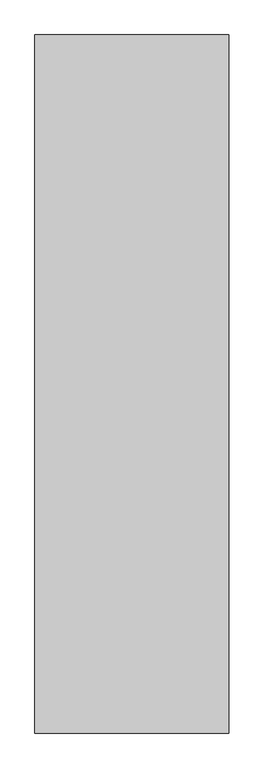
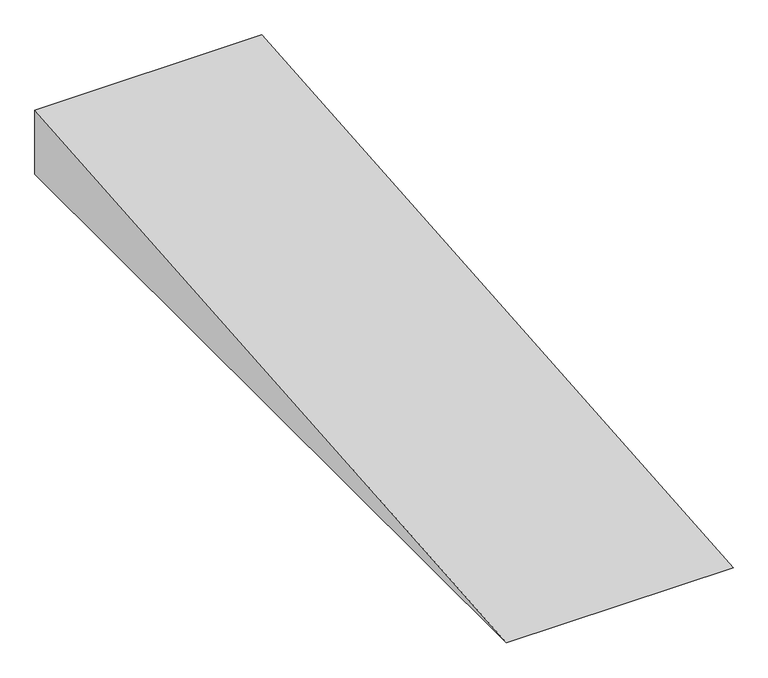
"""IFC4 building model written with IfcOpenShell, lengths in millimetres: ramp geometry, 教学楼坡道 – 1/12."""

from ifc_helpers import new_model, si_unit, frame, origin, place, context, project, spatial, polyline, outline, extrude, source, transform, mapped, element, save


def ramp_28147cfc(model_context):
    return source(origin(), model_context, "Body", "SweptSolid", [
        extrude(outline(polyline([(6600.0, -450.0), (12000.0, 0.0), (12000.0, -450.0), (6600.0, -450.0)])), frame((83750.0, 0.0, 0.0), z_axis=(1.0, 0.0, 0.0), x_axis=(0.0, 1.0, 0.0)), (0.0, 0.0, 1.0), 1500.0),
    ])


if __name__ == "__main__":
    model = new_model("IFC4")
    model_context = context("Model", 3, world=origin())
    ifc_project = project(units=[si_unit("LENGTHUNIT", "METRE", prefix="MILLI")], contexts=[model_context])
    site = spatial("IfcSite", under=ifc_project)
    building = spatial("IfcBuilding", under=site)
    placement = place(None, origin())
    ramp_shape = ramp_28147cfc(model_context)
    element("IfcRamp", 1, ObjectType="教学楼坡道 – 1/12", at=placement, inside=building, context=model_context, shape_type="MappedRepresentation", body=[
        mapped(ramp_shape, transform((0.0, 0.0, 0.0), x_axis=(1.0, 0.0, 0.0), y_axis=(0.0, 1.0, 0.0), z_axis=(0.0, 0.0, 1.0))),
    ])
    save(model, "model.ifc")
